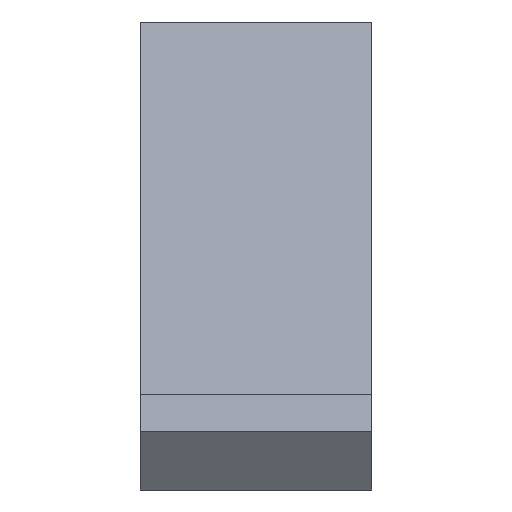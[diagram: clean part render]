
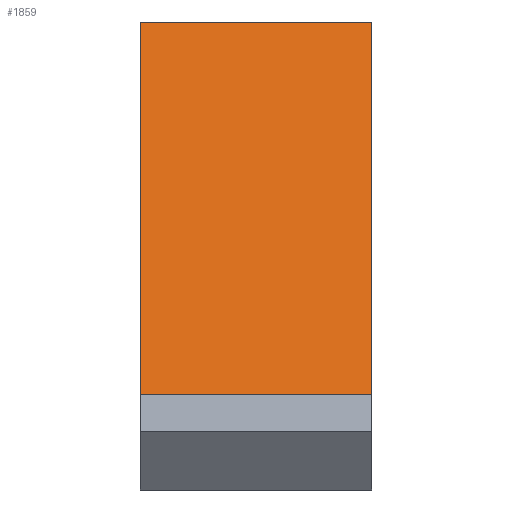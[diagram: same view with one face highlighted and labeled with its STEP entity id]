
A CAD part, left-side view. The second image highlights one B-rep face of the part: STEP entity #1859.
In plain terms, the highlighted planar face has unit normal (-0.97, 0, 0.241).
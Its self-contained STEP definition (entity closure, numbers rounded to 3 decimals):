
#2 = ORIENTED_EDGE ( 'NONE', *, *, #512, .F. ) ;
#7 = LINE ( 'NONE', #980, #1741 ) ;
#87 = LINE ( 'NONE', #1487, #1772 ) ;
#146 = LINE ( 'NONE', #174, #310 ) ;
#162 = DIRECTION ( 'NONE',  ( -0.241, 0., -0.97 ) ) ;
#170 = LINE ( 'NONE', #1983, #522 ) ;
#174 = CARTESIAN_POINT ( 'NONE',  ( -36.283, 55., 182.309 ) ) ;
#188 = LINE ( 'NONE', #1500, #2149 ) ;
#221 = VERTEX_POINT ( 'NONE', #773 ) ;
#303 = VECTOR ( 'NONE', #2067, 1000. ) ;
#310 = VECTOR ( 'NONE', #162, 1000. ) ;
#342 = DIRECTION ( 'NONE',  ( 0., -1., 0. ) ) ;
#368 = CARTESIAN_POINT ( 'NONE',  ( -77.262, 52.5, 17.53 ) ) ;
#382 = EDGE_LOOP ( 'NONE', ( #1350, #2, #505, #436, #1198, #745, #1289, #1444 ) ) ;
#384 = VERTEX_POINT ( 'NONE', #756 ) ;
#436 = ORIENTED_EDGE ( 'NONE', *, *, #883, .F. ) ;
#448 = CARTESIAN_POINT ( 'NONE',  ( -73.642, 55., 32.087 ) ) ;
#458 = EDGE_CURVE ( 'NONE', #1303, #1628, #87, .T. ) ;
#505 = ORIENTED_EDGE ( 'NONE', *, *, #458, .F. ) ;
#512 = EDGE_CURVE ( 'NONE', #1628, #1331, #2024, .T. ) ;
#522 = VECTOR ( 'NONE', #1655, 1000. ) ;
#527 = EDGE_CURVE ( 'NONE', #583, #221, #188, .T. ) ;
#583 = VERTEX_POINT ( 'NONE', #1020 ) ;
#621 = CARTESIAN_POINT ( 'NONE',  ( -73.642, -32.5, 32.087 ) ) ;
#661 = DIRECTION ( 'NONE',  ( 0., 1., 0. ) ) ;
#693 = FACE_OUTER_BOUND ( 'NONE', #382, .T. ) ;
#745 = ORIENTED_EDGE ( 'NONE', *, *, #871, .T. ) ;
#756 = CARTESIAN_POINT ( 'NONE',  ( -73.642, 52.5, 32.087 ) ) ;
#773 = CARTESIAN_POINT ( 'NONE',  ( -36.283, -35., 182.309 ) ) ;
#871 = EDGE_CURVE ( 'NONE', #583, #1216, #146, .T. ) ;
#881 = DIRECTION ( 'NONE',  ( -0.97, 0., 0.241 ) ) ;
#883 = EDGE_CURVE ( 'NONE', #221, #1303, #1001, .T. ) ;
#937 = VECTOR ( 'NONE', #1988, 1000. ) ;
#954 = EDGE_CURVE ( 'NONE', #384, #2057, #7, .T. ) ;
#972 = DIRECTION ( 'NONE',  ( -0.241, 0., -0.97 ) ) ;
#976 = CARTESIAN_POINT ( 'NONE',  ( -73.642, -35., 32.087 ) ) ;
#980 = CARTESIAN_POINT ( 'NONE',  ( -73.642, 52.5, 32.087 ) ) ;
#1001 = LINE ( 'NONE', #1649, #1044 ) ;
#1020 = CARTESIAN_POINT ( 'NONE',  ( -36.283, 55., 182.309 ) ) ;
#1044 = VECTOR ( 'NONE', #1829, 1000. ) ;
#1174 = CARTESIAN_POINT ( 'NONE',  ( -73.642, -32.5, 32.087 ) ) ;
#1198 = ORIENTED_EDGE ( 'NONE', *, *, #527, .F. ) ;
#1199 = PLANE ( 'NONE',  #1430 ) ;
#1216 = VERTEX_POINT ( 'NONE', #448 ) ;
#1289 = ORIENTED_EDGE ( 'NONE', *, *, #1419, .F. ) ;
#1303 = VERTEX_POINT ( 'NONE', #976 ) ;
#1331 = VERTEX_POINT ( 'NONE', #1524 ) ;
#1350 = ORIENTED_EDGE ( 'NONE', *, *, #2010, .T. ) ;
#1407 = CARTESIAN_POINT ( 'NONE',  ( -73.642, 52.5, 32.087 ) ) ;
#1419 = EDGE_CURVE ( 'NONE', #384, #1216, #1923, .T. ) ;
#1430 = AXIS2_PLACEMENT_3D ( 'NONE', #1676, #881, #1698 ) ;
#1444 = ORIENTED_EDGE ( 'NONE', *, *, #954, .T. ) ;
#1487 = CARTESIAN_POINT ( 'NONE',  ( -73.642, -35., 32.087 ) ) ;
#1500 = CARTESIAN_POINT ( 'NONE',  ( -36.283, 248.989, 182.309 ) ) ;
#1524 = CARTESIAN_POINT ( 'NONE',  ( -77.262, -32.5, 17.53 ) ) ;
#1628 = VERTEX_POINT ( 'NONE', #621 ) ;
#1649 = CARTESIAN_POINT ( 'NONE',  ( -36.283, -35., 182.309 ) ) ;
#1655 = DIRECTION ( 'NONE',  ( 0., -1., 0. ) ) ;
#1676 = CARTESIAN_POINT ( 'NONE',  ( -36.283, 248.989, 182.309 ) ) ;
#1698 = DIRECTION ( 'NONE',  ( 0.241, 0., 0.97 ) ) ;
#1741 = VECTOR ( 'NONE', #972, 1000. ) ;
#1772 = VECTOR ( 'NONE', #661, 1000. ) ;
#1829 = DIRECTION ( 'NONE',  ( -0.241, 0., -0.97 ) ) ;
#1859 = ADVANCED_FACE ( 'NONE', ( #693 ), #1199, .T. ) ;
#1923 = LINE ( 'NONE', #1407, #303 ) ;
#1983 = CARTESIAN_POINT ( 'NONE',  ( -77.262, 248.989, 17.53 ) ) ;
#1988 = DIRECTION ( 'NONE',  ( -0.241, 0., -0.97 ) ) ;
#2010 = EDGE_CURVE ( 'NONE', #2057, #1331, #170, .T. ) ;
#2024 = LINE ( 'NONE', #1174, #937 ) ;
#2057 = VERTEX_POINT ( 'NONE', #368 ) ;
#2067 = DIRECTION ( 'NONE',  ( 0., 1., 0. ) ) ;
#2149 = VECTOR ( 'NONE', #342, 1000. ) ;
